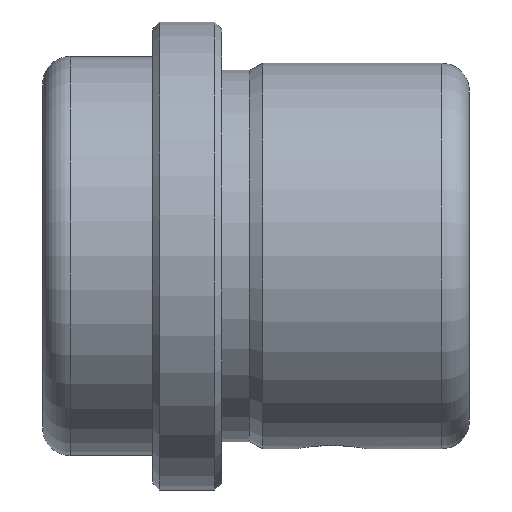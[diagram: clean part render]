
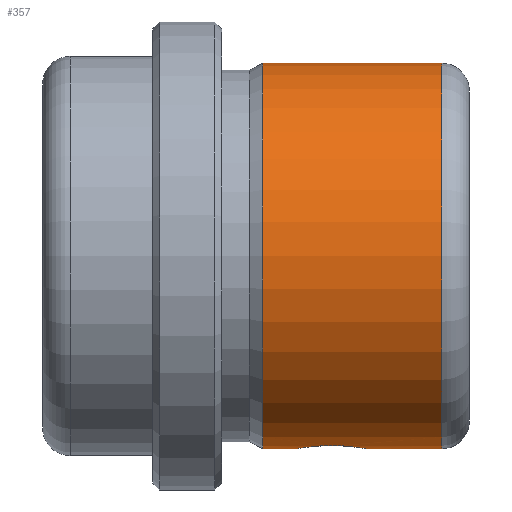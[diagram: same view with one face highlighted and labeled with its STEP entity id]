
A CAD part, top view. The second image highlights one B-rep face of the part: STEP entity #357.
In plain terms, the highlighted cylindrical face has radius 14 mm (diameter 28 mm), a full revolution.
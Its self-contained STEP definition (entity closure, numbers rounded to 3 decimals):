
#26=B_SPLINE_CURVE_WITH_KNOTS('',3,(#560,#561,#562,#563,#564,#565,#566,
#567,#568,#569,#570,#571,#572,#573,#574,#575,#576,#577),.UNSPECIFIED.,.F.,
 .F.,(4,2,2,2,2,2,2,2,4),(0.378,0.472,0.566,
0.661,0.755,0.85,0.944,
1.038,1.133),.UNSPECIFIED.);
#27=B_SPLINE_CURVE_WITH_KNOTS('',3,(#581,#582,#583,#584,#585,#586,#587,
#588,#589,#590,#591,#592,#593,#594,#595,#596,#597,#598,#599),
 .UNSPECIFIED.,.F.,.F.,(4,2,2,2,3,2,2,2,4),(1.133,1.227,
1.321,1.416,1.51,1.605,1.699,
1.793,1.888),.UNSPECIFIED.);
#37=LINE('',#558,#53);
#38=LINE('',#579,#54);
#53=VECTOR('',#455,14.);
#54=VECTOR('',#456,14.);
#69=CYLINDRICAL_SURFACE('',#402,14.);
#79=FACE_OUTER_BOUND('',#99,.T.);
#99=EDGE_LOOP('',(#233,#234,#235,#236,#237,#238,#239,#240,#241));
#124=CIRCLE('',#400,14.);
#125=CIRCLE('',#401,14.);
#126=CIRCLE('',#403,14.);
#147=VERTEX_POINT('',#551);
#148=VERTEX_POINT('',#553);
#149=VERTEX_POINT('',#557);
#150=VERTEX_POINT('',#559);
#151=VERTEX_POINT('',#578);
#179=EDGE_CURVE('',#147,#148,#124,.T.);
#180=EDGE_CURVE('',#148,#147,#125,.T.);
#181=EDGE_CURVE('',#148,#149,#37,.T.);
#182=EDGE_CURVE('',#149,#150,#26,.T.);
#183=EDGE_CURVE('',#150,#151,#38,.T.);
#184=EDGE_CURVE('',#151,#151,#126,.T.);
#185=EDGE_CURVE('',#150,#149,#27,.T.);
#233=ORIENTED_EDGE('',*,*,#180,.F.);
#234=ORIENTED_EDGE('',*,*,#181,.T.);
#235=ORIENTED_EDGE('',*,*,#182,.T.);
#236=ORIENTED_EDGE('',*,*,#183,.T.);
#237=ORIENTED_EDGE('',*,*,#184,.T.);
#238=ORIENTED_EDGE('',*,*,#183,.F.);
#239=ORIENTED_EDGE('',*,*,#185,.T.);
#240=ORIENTED_EDGE('',*,*,#181,.F.);
#241=ORIENTED_EDGE('',*,*,#179,.F.);
#357=ADVANCED_FACE('',(#79),#69,.T.);
#400=AXIS2_PLACEMENT_3D('',#554,#449,#450);
#401=AXIS2_PLACEMENT_3D('',#555,#451,#452);
#402=AXIS2_PLACEMENT_3D('',#556,#453,#454);
#403=AXIS2_PLACEMENT_3D('',#580,#457,#458);
#449=DIRECTION('center_axis',(1.,0.,0.));
#450=DIRECTION('ref_axis',(0.,-1.,0.));
#451=DIRECTION('center_axis',(1.,0.,0.));
#452=DIRECTION('ref_axis',(0.,-1.,0.));
#453=DIRECTION('center_axis',(1.,0.,0.));
#454=DIRECTION('ref_axis',(0.,1.,0.));
#455=DIRECTION('',(-1.,0.,0.));
#456=DIRECTION('',(-1.,0.,0.));
#457=DIRECTION('center_axis',(1.,0.,0.));
#458=DIRECTION('ref_axis',(0.,0.,-1.));
#551=CARTESIAN_POINT('',(29.,0.,14.));
#553=CARTESIAN_POINT('',(29.,-14.,0.));
#554=CARTESIAN_POINT('Origin',(29.,0.,0.));
#555=CARTESIAN_POINT('Origin',(29.,0.,0.));
#556=CARTESIAN_POINT('Origin',(23.5,0.,0.));
#557=CARTESIAN_POINT('',(23.5,-14.,0.));
#558=CARTESIAN_POINT('',(23.5,-14.,0.));
#559=CARTESIAN_POINT('',(18.5,-14.,0.));
#560=CARTESIAN_POINT('Ctrl Pts',(23.5,-14.,0.));
#561=CARTESIAN_POINT('Ctrl Pts',(23.5,-14.,-0.315));
#562=CARTESIAN_POINT('Ctrl Pts',(23.437,-13.988,-0.65));
#563=CARTESIAN_POINT('Ctrl Pts',(23.182,-13.946,-1.266));
#564=CARTESIAN_POINT('Ctrl Pts',(22.989,-13.916,-1.546));
#565=CARTESIAN_POINT('Ctrl Pts',(22.546,-13.86,-1.989));
#566=CARTESIAN_POINT('Ctrl Pts',(22.266,-13.83,-2.182));
#567=CARTESIAN_POINT('Ctrl Pts',(21.65,-13.787,-2.437));
#568=CARTESIAN_POINT('Ctrl Pts',(21.315,-13.775,-2.5));
#569=CARTESIAN_POINT('Ctrl Pts',(20.685,-13.775,-2.5));
#570=CARTESIAN_POINT('Ctrl Pts',(20.35,-13.787,-2.437));
#571=CARTESIAN_POINT('Ctrl Pts',(19.734,-13.83,-2.182));
#572=CARTESIAN_POINT('Ctrl Pts',(19.454,-13.86,-1.989));
#573=CARTESIAN_POINT('Ctrl Pts',(19.011,-13.916,-1.546));
#574=CARTESIAN_POINT('Ctrl Pts',(18.818,-13.946,-1.266));
#575=CARTESIAN_POINT('Ctrl Pts',(18.563,-13.988,-0.65));
#576=CARTESIAN_POINT('Ctrl Pts',(18.5,-14.,-0.315));
#577=CARTESIAN_POINT('Ctrl Pts',(18.5,-14.,0.));
#578=CARTESIAN_POINT('',(16.,-14.,0.));
#579=CARTESIAN_POINT('',(23.5,-14.,0.));
#580=CARTESIAN_POINT('Origin',(16.,0.,0.));
#581=CARTESIAN_POINT('Ctrl Pts',(18.5,-14.,0.));
#582=CARTESIAN_POINT('Ctrl Pts',(18.5,-14.,0.315));
#583=CARTESIAN_POINT('Ctrl Pts',(18.563,-13.988,0.65));
#584=CARTESIAN_POINT('Ctrl Pts',(18.818,-13.946,1.266));
#585=CARTESIAN_POINT('Ctrl Pts',(19.011,-13.916,1.546));
#586=CARTESIAN_POINT('Ctrl Pts',(19.454,-13.86,1.989));
#587=CARTESIAN_POINT('Ctrl Pts',(19.734,-13.83,2.182));
#588=CARTESIAN_POINT('Ctrl Pts',(20.35,-13.787,2.437));
#589=CARTESIAN_POINT('Ctrl Pts',(20.685,-13.775,2.5));
#590=CARTESIAN_POINT('Ctrl Pts',(21.,-13.775,2.5));
#591=CARTESIAN_POINT('Ctrl Pts',(21.315,-13.775,2.5));
#592=CARTESIAN_POINT('Ctrl Pts',(21.65,-13.787,2.437));
#593=CARTESIAN_POINT('Ctrl Pts',(22.266,-13.83,2.182));
#594=CARTESIAN_POINT('Ctrl Pts',(22.546,-13.86,1.989));
#595=CARTESIAN_POINT('Ctrl Pts',(22.989,-13.916,1.546));
#596=CARTESIAN_POINT('Ctrl Pts',(23.182,-13.946,1.266));
#597=CARTESIAN_POINT('Ctrl Pts',(23.437,-13.988,0.65));
#598=CARTESIAN_POINT('Ctrl Pts',(23.5,-14.,0.315));
#599=CARTESIAN_POINT('Ctrl Pts',(23.5,-14.,0.));
